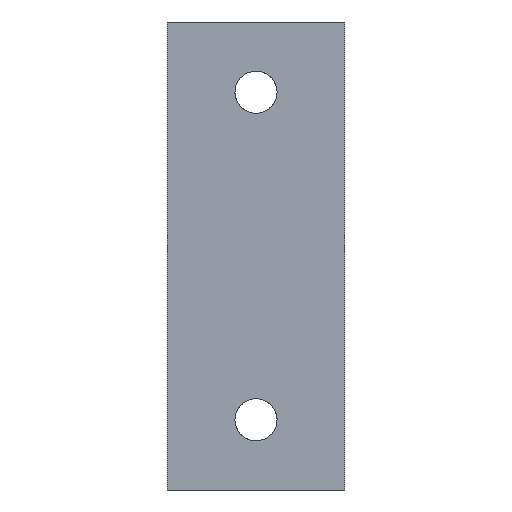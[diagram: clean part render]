
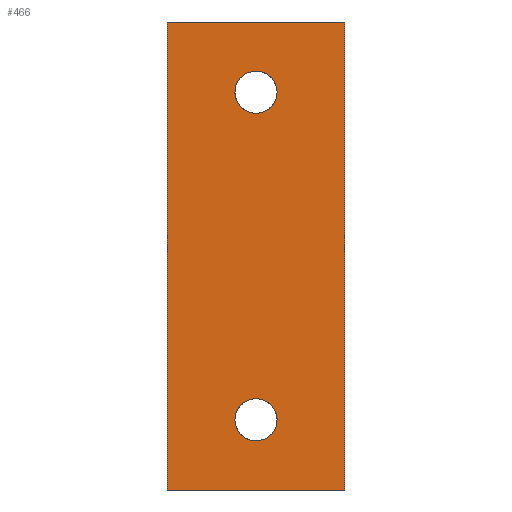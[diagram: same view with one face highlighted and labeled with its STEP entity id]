
A CAD part, front view. The second image highlights one B-rep face of the part: STEP entity #466.
In plain terms, the highlighted face is a extrusion surface.
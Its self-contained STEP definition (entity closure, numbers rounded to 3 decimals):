
#355=CARTESIAN_POINT('Control Point',(-38.,0.,0.)) ;
#356=CARTESIAN_POINT('Control Point',(-38.,0.,-100.)) ;
#360=CARTESIAN_POINT('Line Origine',(-19.,0.,-100.)) ;
#364=CARTESIAN_POINT('Vertex',(-38.,0.,-100.)) ;
#366=CARTESIAN_POINT('Vertex',(0.,0.,-100.)) ;
#369=CARTESIAN_POINT('Line Origine',(0.,0.,-50.)) ;
#373=CARTESIAN_POINT('Vertex',(0.,0.,0.)) ;
#376=CARTESIAN_POINT('Line Origine',(-19.,0.,0.)) ;
#380=CARTESIAN_POINT('Vertex',(-38.,0.,0.)) ;
#383=CARTESIAN_POINT('Line Origine',(-38.,0.,-50.)) ;
#395=CARTESIAN_POINT('Control Point',(-14.5,0.,-85.)) ;
#396=CARTESIAN_POINT('Control Point',(-14.5,0.,-86.247)) ;
#397=CARTESIAN_POINT('Control Point',(-14.932,0.,-87.494)) ;
#398=CARTESIAN_POINT('Control Point',(-15.8,0.,-88.539)) ;
#399=CARTESIAN_POINT('Control Point',(-17.71,0.,-89.63)) ;
#400=CARTESIAN_POINT('Control Point',(-19.841,0.,-89.54)) ;
#401=CARTESIAN_POINT('Control Point',(-20.671,0.,-89.305)) ;
#402=CARTESIAN_POINT('Control Point',(-22.085,0.,-88.511)) ;
#403=CARTESIAN_POINT('Control Point',(-23.032,0.,-87.204)) ;
#404=CARTESIAN_POINT('Control Point',(-23.344,0.,-86.498)) ;
#405=CARTESIAN_POINT('Control Point',(-23.5,0.,-85.749)) ;
#406=CARTESIAN_POINT('Control Point',(-23.5,0.,-85.)) ;
#407=CARTESIAN_POINT('Vertex',(-14.5,0.,-85.)) ;
#409=CARTESIAN_POINT('Vertex',(-23.5,0.,-85.)) ;
#413=CARTESIAN_POINT('Control Point',(-23.5,0.,-85.)) ;
#414=CARTESIAN_POINT('Control Point',(-23.5,0.,-83.753)) ;
#415=CARTESIAN_POINT('Control Point',(-23.068,0.,-82.506)) ;
#416=CARTESIAN_POINT('Control Point',(-22.2,0.,-81.461)) ;
#417=CARTESIAN_POINT('Control Point',(-20.29,0.,-80.37)) ;
#418=CARTESIAN_POINT('Control Point',(-18.159,0.,-80.46)) ;
#419=CARTESIAN_POINT('Control Point',(-17.329,0.,-80.695)) ;
#420=CARTESIAN_POINT('Control Point',(-15.915,0.,-81.489)) ;
#421=CARTESIAN_POINT('Control Point',(-14.968,0.,-82.796)) ;
#422=CARTESIAN_POINT('Control Point',(-14.656,0.,-83.502)) ;
#423=CARTESIAN_POINT('Control Point',(-14.5,0.,-84.251)) ;
#424=CARTESIAN_POINT('Control Point',(-14.5,0.,-85.)) ;
#431=CARTESIAN_POINT('Control Point',(-14.5,0.,-15.)) ;
#432=CARTESIAN_POINT('Control Point',(-14.5,0.,-16.247)) ;
#433=CARTESIAN_POINT('Control Point',(-14.932,0.,-17.494)) ;
#434=CARTESIAN_POINT('Control Point',(-15.8,0.,-18.539)) ;
#435=CARTESIAN_POINT('Control Point',(-17.71,0.,-19.63)) ;
#436=CARTESIAN_POINT('Control Point',(-19.841,0.,-19.54)) ;
#437=CARTESIAN_POINT('Control Point',(-20.671,0.,-19.305)) ;
#438=CARTESIAN_POINT('Control Point',(-22.085,0.,-18.511)) ;
#439=CARTESIAN_POINT('Control Point',(-23.032,0.,-17.204)) ;
#440=CARTESIAN_POINT('Control Point',(-23.344,0.,-16.498)) ;
#441=CARTESIAN_POINT('Control Point',(-23.5,0.,-15.749)) ;
#442=CARTESIAN_POINT('Control Point',(-23.5,0.,-15.)) ;
#443=CARTESIAN_POINT('Vertex',(-14.5,0.,-15.)) ;
#445=CARTESIAN_POINT('Vertex',(-23.5,0.,-15.)) ;
#449=CARTESIAN_POINT('Control Point',(-23.5,0.,-15.)) ;
#450=CARTESIAN_POINT('Control Point',(-23.5,0.,-13.753)) ;
#451=CARTESIAN_POINT('Control Point',(-23.068,0.,-12.506)) ;
#452=CARTESIAN_POINT('Control Point',(-22.2,0.,-11.461)) ;
#453=CARTESIAN_POINT('Control Point',(-20.29,0.,-10.37)) ;
#454=CARTESIAN_POINT('Control Point',(-18.159,0.,-10.46)) ;
#455=CARTESIAN_POINT('Control Point',(-17.329,0.,-10.695)) ;
#456=CARTESIAN_POINT('Control Point',(-15.915,0.,-11.489)) ;
#457=CARTESIAN_POINT('Control Point',(-14.968,0.,-12.796)) ;
#458=CARTESIAN_POINT('Control Point',(-14.656,0.,-13.502)) ;
#459=CARTESIAN_POINT('Control Point',(-14.5,0.,-14.251)) ;
#460=CARTESIAN_POINT('Control Point',(-14.5,0.,-15.)) ;
#357=DIRECTION('Vector Direction',(1.,0.,0.)) ;
#361=DIRECTION('Vector Direction',(1.,0.,0.)) ;
#370=DIRECTION('Vector Direction',(0.,0.,-1.)) ;
#377=DIRECTION('Vector Direction',(1.,0.,0.)) ;
#384=DIRECTION('Vector Direction',(0.,0.,-1.)) ;
#389=ORIENTED_EDGE('',*,*,#368,.T.) ;
#390=ORIENTED_EDGE('',*,*,#375,.T.) ;
#391=ORIENTED_EDGE('',*,*,#382,.T.) ;
#392=ORIENTED_EDGE('',*,*,#387,.T.) ;
#427=ORIENTED_EDGE('',*,*,#411,.T.) ;
#428=ORIENTED_EDGE('',*,*,#425,.T.) ;
#463=ORIENTED_EDGE('',*,*,#447,.T.) ;
#464=ORIENTED_EDGE('',*,*,#461,.T.) ;
#429=FACE_BOUND('',#426,.T.) ;
#465=FACE_BOUND('',#462,.T.) ;
#358=VECTOR('Extrusion Surface Vector',#357,1.) ;
#362=VECTOR('Line Direction',#361,1.) ;
#371=VECTOR('Line Direction',#370,1.) ;
#378=VECTOR('Line Direction',#377,1.) ;
#385=VECTOR('Line Direction',#384,1.) ;
#466=ADVANCED_FACE('Superficie.6',(#393,#429,#465),#359,.T.) ;
#354=B_SPLINE_CURVE_WITH_KNOTS('',1,(#355,#356),.UNSPECIFIED.,.F.,.U.,(2,2),(-50.,50.),.UNSPECIFIED.) ;
#394=B_SPLINE_CURVE_WITH_KNOTS('',5,(#395,#396,#397,#398,#399,#400,#401,#402,#403,#404,#405,#406),.UNSPECIFIED.,.F.,.U.,(6,3,3,6),(0.,8.818,14.697,19.993),.UNSPECIFIED.) ;
#412=B_SPLINE_CURVE_WITH_KNOTS('',5,(#413,#414,#415,#416,#417,#418,#419,#420,#421,#422,#423,#424),.UNSPECIFIED.,.F.,.U.,(6,3,3,6),(0.,8.818,14.697,19.993),.UNSPECIFIED.) ;
#430=B_SPLINE_CURVE_WITH_KNOTS('',5,(#431,#432,#433,#434,#435,#436,#437,#438,#439,#440,#441,#442),.UNSPECIFIED.,.F.,.U.,(6,3,3,6),(0.,8.818,14.697,19.993),.UNSPECIFIED.) ;
#448=B_SPLINE_CURVE_WITH_KNOTS('',5,(#449,#450,#451,#452,#453,#454,#455,#456,#457,#458,#459,#460),.UNSPECIFIED.,.F.,.U.,(6,3,3,6),(0.,8.818,14.697,19.993),.UNSPECIFIED.) ;
#368=EDGE_CURVE('',#365,#367,#363,.T.) ;
#375=EDGE_CURVE('',#367,#374,#372,.F.) ;
#382=EDGE_CURVE('',#374,#381,#379,.F.) ;
#387=EDGE_CURVE('',#381,#365,#386,.T.) ;
#411=EDGE_CURVE('',#408,#410,#394,.T.) ;
#425=EDGE_CURVE('',#410,#408,#412,.T.) ;
#447=EDGE_CURVE('',#444,#446,#430,.T.) ;
#461=EDGE_CURVE('',#446,#444,#448,.T.) ;
#388=EDGE_LOOP('',(#389,#390,#391,#392)) ;
#426=EDGE_LOOP('',(#427,#428)) ;
#462=EDGE_LOOP('',(#463,#464)) ;
#393=FACE_OUTER_BOUND('',#388,.T.) ;
#363=LINE('Line',#360,#362) ;
#372=LINE('Line',#369,#371) ;
#379=LINE('Line',#376,#378) ;
#386=LINE('Line',#383,#385) ;
#359=SURFACE_OF_LINEAR_EXTRUSION('generated tabulated cylinder',#354,#358) ;
#365=VERTEX_POINT('',#364) ;
#367=VERTEX_POINT('',#366) ;
#374=VERTEX_POINT('',#373) ;
#381=VERTEX_POINT('',#380) ;
#408=VERTEX_POINT('',#407) ;
#410=VERTEX_POINT('',#409) ;
#444=VERTEX_POINT('',#443) ;
#446=VERTEX_POINT('',#445) ;
